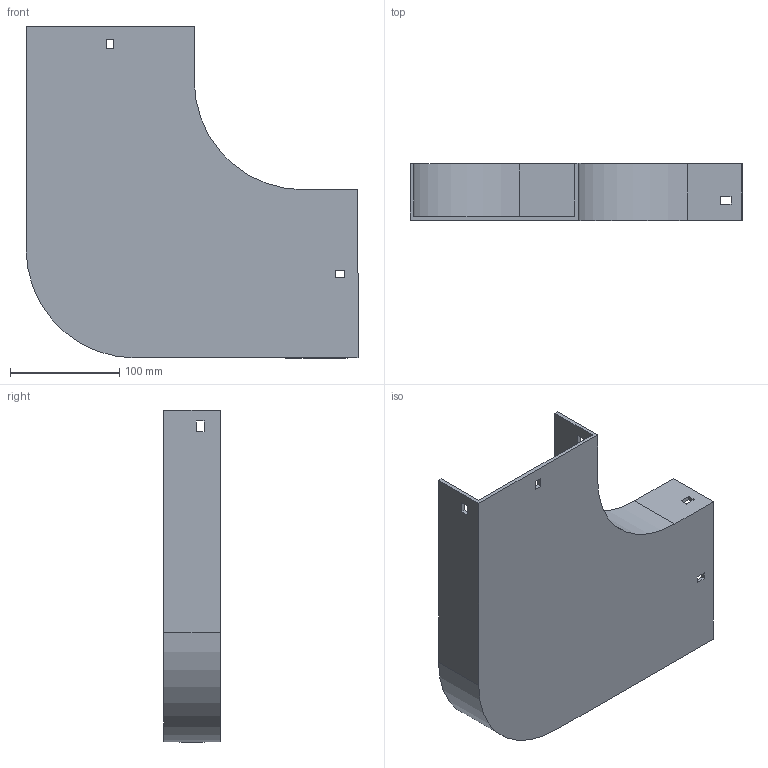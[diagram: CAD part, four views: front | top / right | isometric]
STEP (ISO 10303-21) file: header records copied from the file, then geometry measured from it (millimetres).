
FILE_DESCRIPTION (( 'STEP AP214' ), '1' );
FILE_NAME ('10B1B150.step', '2025-02-21T09:40:30', ( '' ), ( '' ), 'SwSTEP 2.0', 'SolidWorks 2023', '' );
FILE_SCHEMA (( 'AUTOMOTIVE_DESIGN' ));
Length unit declared in the file: millimetre
Products named in the file (1): 10B1B150
Bounding box: 304 x 52 x 304 mm (x, y, z)
Volume: 382878 mm3; surface area: 224115 mm2
Topology: 1 solids, 1 shells, 42 faces, 120 edges, 80 vertices
Faces by surface type: plane 38, cylinder 4
Entity records: 1399 total; most frequent: CARTESIAN_POINT 243, ORIENTED_EDGE 240, DIRECTION 214, EDGE_CURVE 120, LINE 112, VECTOR 112, VERTEX_POINT 80, EDGE_LOOP 54
